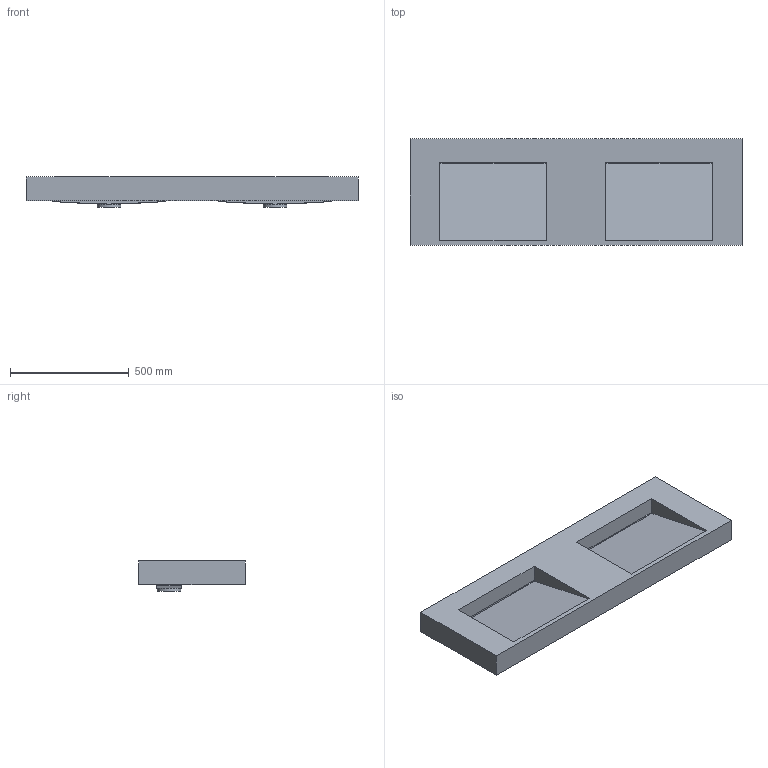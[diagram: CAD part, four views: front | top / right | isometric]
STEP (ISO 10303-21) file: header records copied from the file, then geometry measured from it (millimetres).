
FILE_DESCRIPTION(/* description */ (''),/* implementation_level */ '2;1');
FILE_NAME(/* name */ 'Wall-Hung Basin 1400D.stp',/* time_stamp */ '2025-10-25T10:51:46+08:00',/* author */ (''),/* organization */ (''),/* preprocessor_version */ 'ST-DEVELOPER v20',/* originating_system */ 'SIEMENS PLM Software NX2412.4001',/* authorisation */ '');
FILE_SCHEMA (('AUTOMOTIVE_DESIGN { 1 0 10303 214 3 1 1 1 }'));
Length unit declared in the file: millimetre
Products named in the file (1): Wall-Hung Basin 1400D
Bounding box: 1400 x 450 x 127 mm (x, y, z)
Volume: 15929136.3 mm3; surface area: 2481937.8 mm2
Topology: 1 solids, 1 shells, 85 faces, 240 edges, 150 vertices
Faces by surface type: plane 71, cylinder 8, cone 6
Full cylindrical faces by diameter (mm): 45 x2, 100 x2
Entity records: 2730 total; most frequent: CARTESIAN_POINT 586, ORIENTED_EDGE 452, DIRECTION 400, EDGE_CURVE 226, LINE 192, VECTOR 192, VERTEX_POINT 146, AXIS2_PLACEMENT_3D 104
